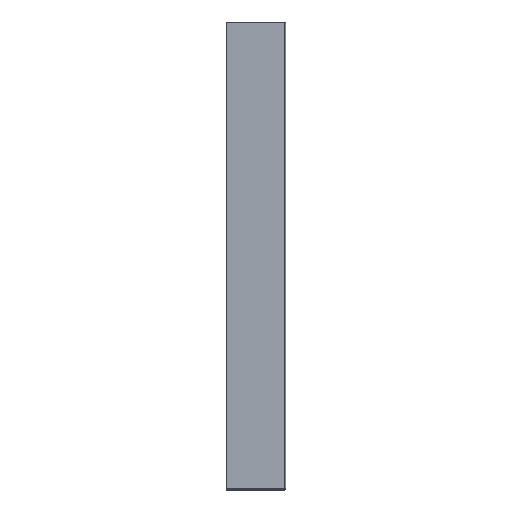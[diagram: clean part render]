
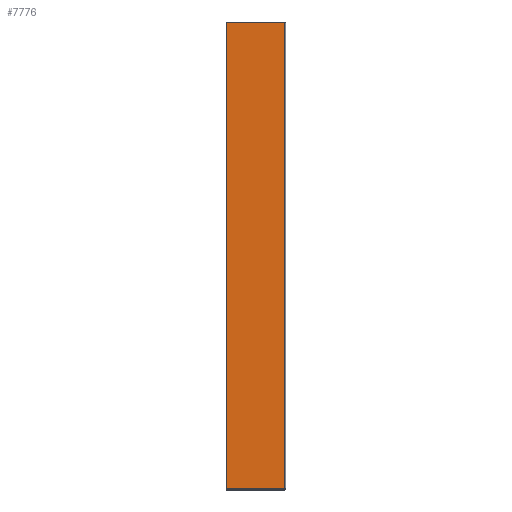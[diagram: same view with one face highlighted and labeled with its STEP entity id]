
A CAD part, left-side view. The second image highlights one B-rep face of the part: STEP entity #7776.
In plain terms, the highlighted planar face has unit normal (-1, 0, 0).
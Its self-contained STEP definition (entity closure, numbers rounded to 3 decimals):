
#99 = CARTESIAN_POINT ( 'NONE',  ( -21.25, 73., 590. ) ) ;
#273 = EDGE_CURVE ( 'NONE', #677, #3131, #7112, .T. ) ;
#623 = ORIENTED_EDGE ( 'NONE', *, *, #6745, .T. ) ;
#641 = LINE ( 'NONE', #99, #2506 ) ;
#677 = VERTEX_POINT ( 'NONE', #2685 ) ;
#1026 = FACE_OUTER_BOUND ( 'NONE', #8500, .T. ) ;
#1316 = EDGE_CURVE ( 'NONE', #1450, #6459, #4617, .T. ) ;
#1450 = VERTEX_POINT ( 'NONE', #2347 ) ;
#2142 = ORIENTED_EDGE ( 'NONE', *, *, #1316, .T. ) ;
#2347 = CARTESIAN_POINT ( 'NONE',  ( -21.25, 73., 0. ) ) ;
#2488 = CARTESIAN_POINT ( 'NONE',  ( -21.25, -0.75, 0. ) ) ;
#2506 = VECTOR ( 'NONE', #5615, 1000. ) ;
#2685 = CARTESIAN_POINT ( 'NONE',  ( -21.25, 73., 590. ) ) ;
#2717 = DIRECTION ( 'NONE',  ( 0., -1., 0. ) ) ;
#2751 = VECTOR ( 'NONE', #5832, 1000. ) ;
#2920 = CARTESIAN_POINT ( 'NONE',  ( -21.25, 0., 590. ) ) ;
#3131 = VERTEX_POINT ( 'NONE', #3214 ) ;
#3214 = CARTESIAN_POINT ( 'NONE',  ( -21.25, -0.75, 590. ) ) ;
#3300 = LINE ( 'NONE', #7686, #3509 ) ;
#3509 = VECTOR ( 'NONE', #3664, 1000. ) ;
#3510 = VECTOR ( 'NONE', #2717, 1000. ) ;
#3664 = DIRECTION ( 'NONE',  ( 0., 0., 1. ) ) ;
#4119 = DIRECTION ( 'NONE',  ( 0., 0., -1. ) ) ;
#4617 = LINE ( 'NONE', #8531, #2751 ) ;
#4744 = ORIENTED_EDGE ( 'NONE', *, *, #273, .F. ) ;
#5159 = AXIS2_PLACEMENT_3D ( 'NONE', #7729, #8410, #4119 ) ;
#5166 = PLANE ( 'NONE',  #5159 ) ;
#5175 = ORIENTED_EDGE ( 'NONE', *, *, #6243, .T. ) ;
#5615 = DIRECTION ( 'NONE',  ( 0., 0., -1. ) ) ;
#5832 = DIRECTION ( 'NONE',  ( 0., -1., 0. ) ) ;
#6243 = EDGE_CURVE ( 'NONE', #6459, #3131, #3300, .T. ) ;
#6459 = VERTEX_POINT ( 'NONE', #2488 ) ;
#6745 = EDGE_CURVE ( 'NONE', #677, #1450, #641, .T. ) ;
#7112 = LINE ( 'NONE', #2920, #3510 ) ;
#7686 = CARTESIAN_POINT ( 'NONE',  ( -21.25, -0.75, 590. ) ) ;
#7729 = CARTESIAN_POINT ( 'NONE',  ( -21.25, 0., 590. ) ) ;
#7776 = ADVANCED_FACE ( 'NONE', ( #1026 ), #5166, .F. ) ;
#8410 = DIRECTION ( 'NONE',  ( 1., 0., 0. ) ) ;
#8500 = EDGE_LOOP ( 'NONE', ( #2142, #5175, #4744, #623 ) ) ;
#8531 = CARTESIAN_POINT ( 'NONE',  ( -21.25, 0., 0. ) ) ;
